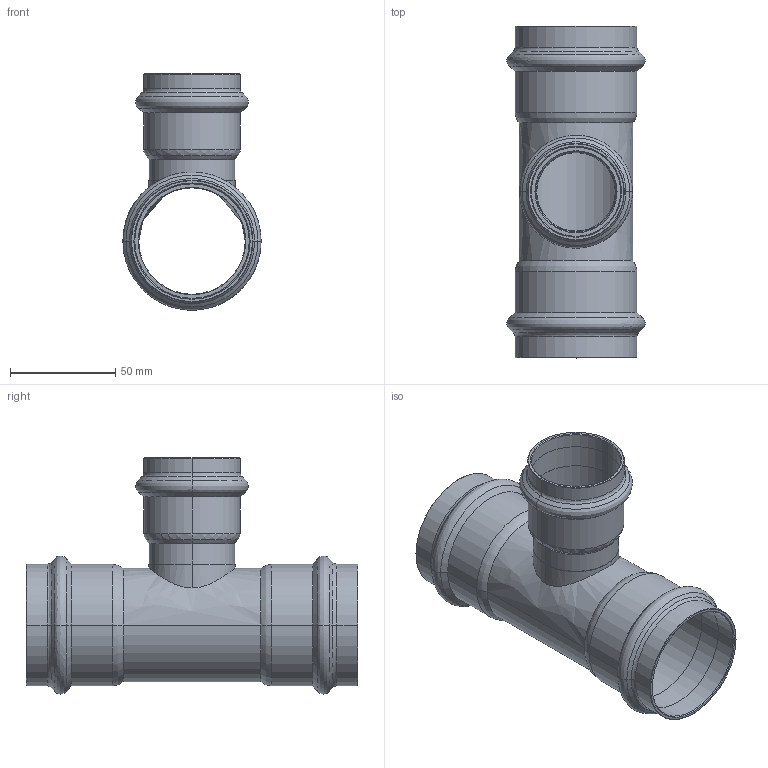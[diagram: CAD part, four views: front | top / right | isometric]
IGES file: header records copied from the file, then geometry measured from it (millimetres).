
Start section: Elysium IGES Interface
Global section: file name: C:\3d modellen sudo\C-Pr VP\SP8130RV\8130RVW544254.igs; native system: CoCreate Modeling 17.00A  17-Jun-2010; preprocessor: CoCreate IGES_3D V2.2; author: Unknown; organization: Unknown; date: 20130131.144725; units: millimetre
Bounding box: 65.68 x 157.73 x 112.32 mm (x, y, z)
Volume: 71656.6 mm3; surface area: 71483.3 mm2
Topology: 1 solids, 1 shells, 128 faces, 262 edges, 142 vertices
Faces by surface type: bspline 128
